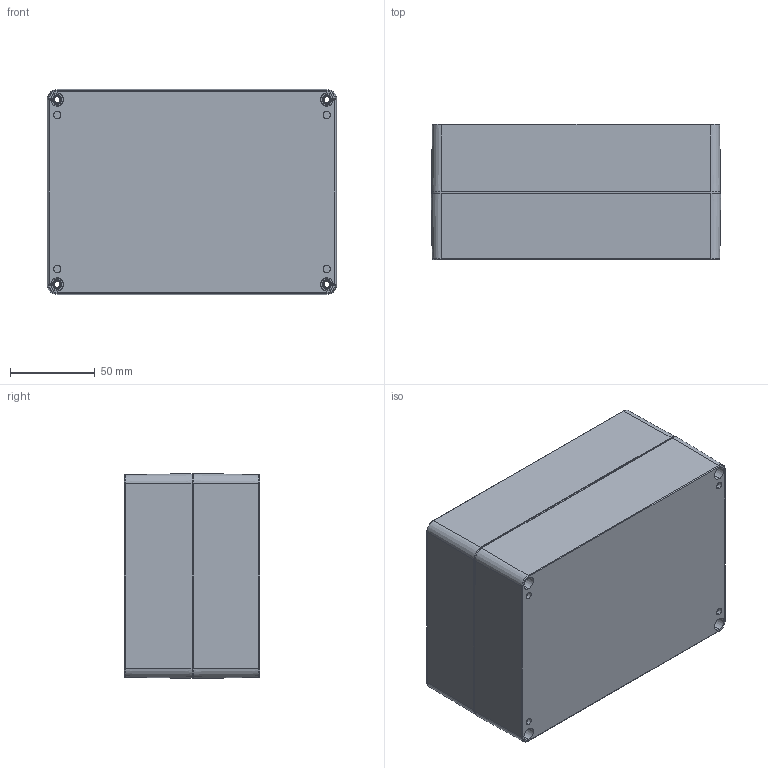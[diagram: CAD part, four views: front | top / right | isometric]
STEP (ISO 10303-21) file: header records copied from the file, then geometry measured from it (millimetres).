
FILE_DESCRIPTION (( 'STEP AP203' ), '1' );
FILE_NAME ('SE-238-0-0.STEP', '2019-11-27T11:13:03', ( '' ), ( '' ), 'SwSTEP 2.0', 'SolidWorks 2020', '' );
FILE_SCHEMA (( 'CONFIG_CONTROL_DESIGN' ));
Length unit declared in the file: millimetre
Products named in the file (4): SE-238_pcb_sample; SE-238-P-1; SE-236-P-2; SE-238-0-0
Assembly tree (3 placements, depth 2):
  SE-238-0-0
    SE-236-P-2
    SE-238-P-1
    SE-238_pcb_sample
Bounding box: 170.97 x 80 x 120.97 mm (x, y, z)
Volume: 322313.1 mm3; surface area: 229500.6 mm2
Topology: 11 solids, 11 shells, 1448 faces, 3876 edges, 2492 vertices
Faces by surface type: bspline 464, cylinder 372, plane 360, cone 244, torus 8
Entity records: 50074 total; most frequent: CARTESIAN_POINT 16198, ORIENTED_EDGE 7680, DIRECTION 6104, EDGE_CURVE 3840, VERTEX_POINT 2492, AXIS2_PLACEMENT_3D 2202, LINE 1700, VECTOR 1700
